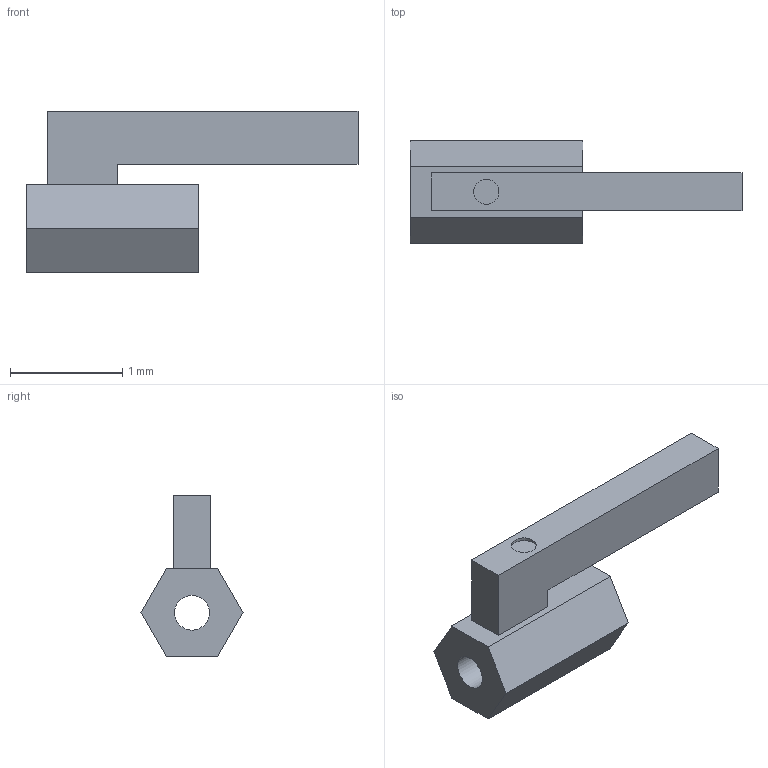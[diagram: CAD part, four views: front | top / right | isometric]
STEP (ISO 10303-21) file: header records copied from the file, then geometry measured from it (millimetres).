
FILE_DESCRIPTION(('Open CASCADE Model'),'2;1');
FILE_NAME('Open CASCADE Shape Model','2021-09-23T13:54:39',('Author'),( 'Open CASCADE'),'Open CASCADE STEP processor 7.3','Open CASCADE 7.3' ,'Unknown');
FILE_SCHEMA(('AUTOMOTIVE_DESIGN { 1 0 10303 214 1 1 1 1 }'));
Length unit declared in the file: millimetre
Products named in the file (1): Open CASCADE STEP translator 7.3 1
Bounding box: 2.96 x 0.91 x 1.44 mm (x, y, z)
Volume: 1.2 mm3; surface area: 11.4 mm2
Topology: 1 solids, 1 shells, 18 faces, 43 edges, 29 vertices
Faces by surface type: plane 16, cylinder 2
Full cylindrical faces by diameter (mm): 0.223 x1, 0.31 x1
Entity records: 1100 total; most frequent: CARTESIAN_POINT 197, DIRECTION 167, LINE 117, VECTOR 117, ORIENTED_EDGE 86, PCURVE 86, DEFINITIONAL_REPRESENTATION 86, EDGE_CURVE 43
